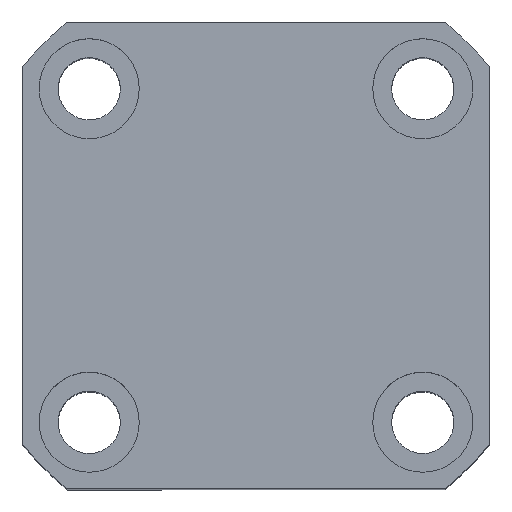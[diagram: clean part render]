
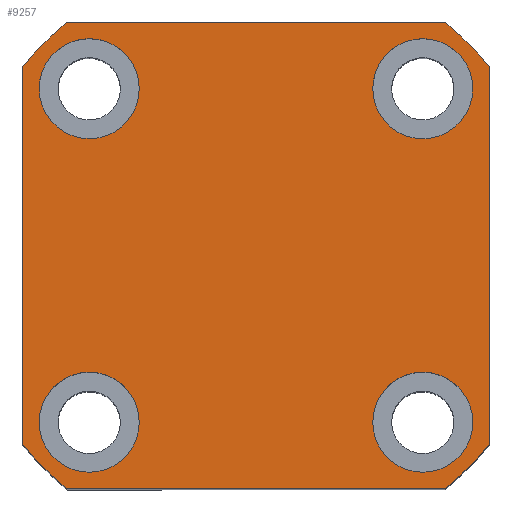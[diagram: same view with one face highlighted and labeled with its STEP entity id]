
A CAD part, top view. The second image highlights one B-rep face of the part: STEP entity #9257.
In plain terms, the highlighted planar face has unit normal (0, 0, 1).
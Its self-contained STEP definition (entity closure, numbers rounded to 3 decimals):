
#21 = CIRCLE ( 'NONE', #6198, 27. ) ;
#107 = DIRECTION ( 'NONE',  ( 1., 0., 0. ) ) ;
#111 = ORIENTED_EDGE ( 'NONE', *, *, #5275, .F. ) ;
#158 = DIRECTION ( 'NONE',  ( 1., 0., 0. ) ) ;
#187 = CARTESIAN_POINT ( 'NONE',  ( -19.5, -14.998, 53. ) ) ;
#353 = EDGE_LOOP ( 'NONE', ( #111, #7687 ) ) ;
#419 = ORIENTED_EDGE ( 'NONE', *, *, #3808, .F. ) ;
#482 = DIRECTION ( 'NONE',  ( 0., -1., 0. ) ) ;
#826 = LINE ( 'NONE', #8890, #2815 ) ;
#912 = CARTESIAN_POINT ( 'NONE',  ( 0., 0., 53. ) ) ;
#973 = EDGE_LOOP ( 'NONE', ( #419, #5127 ) ) ;
#989 = AXIS2_PLACEMENT_3D ( 'NONE', #1233, #7025, #2065 ) ;
#1097 = AXIS2_PLACEMENT_3D ( 'NONE', #6761, #1789, #7550 ) ;
#1173 = CARTESIAN_POINT ( 'NONE',  ( -15., 15.002, 53. ) ) ;
#1205 = FACE_BOUND ( 'NONE', #1309, .T. ) ;
#1208 = DIRECTION ( 'NONE',  ( 0., 0., 1. ) ) ;
#1233 = CARTESIAN_POINT ( 'NONE',  ( 15., 15., 53. ) ) ;
#1245 = DIRECTION ( 'NONE',  ( 1., 0., 0. ) ) ;
#1309 = EDGE_LOOP ( 'NONE', ( #9272, #7225 ) ) ;
#1359 = EDGE_CURVE ( 'NONE', #1719, #10538, #7311, .T. ) ;
#1425 = CARTESIAN_POINT ( 'NONE',  ( -15., -14.998, 53. ) ) ;
#1436 = CARTESIAN_POINT ( 'NONE',  ( 21., 16.971, 53. ) ) ;
#1446 = EDGE_CURVE ( 'NONE', #8176, #4921, #8923, .T. ) ;
#1510 = DIRECTION ( 'NONE',  ( -1., 0., 0. ) ) ;
#1535 = CIRCLE ( 'NONE', #989, 4.5 ) ;
#1544 = EDGE_CURVE ( 'NONE', #9676, #9522, #2143, .T. ) ;
#1621 = PLANE ( 'NONE',  #7654 ) ;
#1664 = AXIS2_PLACEMENT_3D ( 'NONE', #9939, #5090, #107 ) ;
#1719 = VERTEX_POINT ( 'NONE', #6957 ) ;
#1730 = VECTOR ( 'NONE', #482, 1000. ) ;
#1758 = DIRECTION ( 'NONE',  ( 1., 0., 0. ) ) ;
#1789 = DIRECTION ( 'NONE',  ( 0., 0., 1. ) ) ;
#1834 = LINE ( 'NONE', #8924, #8130 ) ;
#1846 = EDGE_CURVE ( 'NONE', #7082, #8819, #826, .T. ) ;
#1909 = DIRECTION ( 'NONE',  ( 0., 0., 1. ) ) ;
#2065 = DIRECTION ( 'NONE',  ( 1., 0., 0. ) ) ;
#2143 = CIRCLE ( 'NONE', #3657, 4.5 ) ;
#2167 = ORIENTED_EDGE ( 'NONE', *, *, #9936, .T. ) ;
#2182 = AXIS2_PLACEMENT_3D ( 'NONE', #3732, #9422, #4555 ) ;
#2277 = DIRECTION ( 'NONE',  ( 1., 0., 0. ) ) ;
#2385 = CARTESIAN_POINT ( 'NONE',  ( 0., 0., 53. ) ) ;
#2497 = EDGE_CURVE ( 'NONE', #9258, #2653, #9911, .T. ) ;
#2653 = VERTEX_POINT ( 'NONE', #7353 ) ;
#2762 = CARTESIAN_POINT ( 'NONE',  ( 10.5, -14.998, 53. ) ) ;
#2815 = VECTOR ( 'NONE', #1510, 1000. ) ;
#2931 = CIRCLE ( 'NONE', #9169, 4.5 ) ;
#2987 = CARTESIAN_POINT ( 'NONE',  ( 0., 0., 53. ) ) ;
#3237 = DIRECTION ( 'NONE',  ( 1., 0., 0. ) ) ;
#3449 = FACE_BOUND ( 'NONE', #353, .T. ) ;
#3460 = CARTESIAN_POINT ( 'NONE',  ( -10.5, -14.998, 53. ) ) ;
#3470 = CARTESIAN_POINT ( 'NONE',  ( -15., 15.002, 53. ) ) ;
#3576 = ORIENTED_EDGE ( 'NONE', *, *, #7195, .T. ) ;
#3589 = CARTESIAN_POINT ( 'NONE',  ( 19.5, 15., 53. ) ) ;
#3657 = AXIS2_PLACEMENT_3D ( 'NONE', #9983, #5139, #158 ) ;
#3732 = CARTESIAN_POINT ( 'NONE',  ( 0., 0., 53. ) ) ;
#3754 = CARTESIAN_POINT ( 'NONE',  ( -16.971, -21., 53. ) ) ;
#3763 = CIRCLE ( 'NONE', #7307, 4.5 ) ;
#3790 = DIRECTION ( 'NONE',  ( 1., 0., 0. ) ) ;
#3808 = EDGE_CURVE ( 'NONE', #9298, #10289, #5096, .T. ) ;
#3876 = EDGE_CURVE ( 'NONE', #10355, #4450, #2931, .T. ) ;
#3940 = FACE_BOUND ( 'NONE', #973, .T. ) ;
#3977 = DIRECTION ( 'NONE',  ( 0., 0., 1. ) ) ;
#4091 = EDGE_CURVE ( 'NONE', #8819, #9258, #7893, .T. ) ;
#4168 = CARTESIAN_POINT ( 'NONE',  ( -16.971, 21., 53. ) ) ;
#4278 = DIRECTION ( 'NONE',  ( 1., 0., 0. ) ) ;
#4450 = VERTEX_POINT ( 'NONE', #10567 ) ;
#4536 = ORIENTED_EDGE ( 'NONE', *, *, #10610, .T. ) ;
#4555 = DIRECTION ( 'NONE',  ( 1., 0., 0. ) ) ;
#4600 = ORIENTED_EDGE ( 'NONE', *, *, #9685, .T. ) ;
#4883 = DIRECTION ( 'NONE',  ( 1., 0., 0. ) ) ;
#4921 = VERTEX_POINT ( 'NONE', #6996 ) ;
#5090 = DIRECTION ( 'NONE',  ( 0., 0., 1. ) ) ;
#5096 = CIRCLE ( 'NONE', #8619, 4.5 ) ;
#5118 = VECTOR ( 'NONE', #7214, 1000. ) ;
#5127 = ORIENTED_EDGE ( 'NONE', *, *, #7984, .F. ) ;
#5139 = DIRECTION ( 'NONE',  ( 0., 0., 1. ) ) ;
#5157 = AXIS2_PLACEMENT_3D ( 'NONE', #6877, #1909, #7658 ) ;
#5193 = EDGE_CURVE ( 'NONE', #4921, #8176, #3763, .T. ) ;
#5275 = EDGE_CURVE ( 'NONE', #9522, #9676, #1535, .T. ) ;
#5287 = CIRCLE ( 'NONE', #1097, 4.5 ) ;
#5311 = VERTEX_POINT ( 'NONE', #5382 ) ;
#5373 = VERTEX_POINT ( 'NONE', #3754 ) ;
#5382 = CARTESIAN_POINT ( 'NONE',  ( 16.971, -21., 53. ) ) ;
#5844 = AXIS2_PLACEMENT_3D ( 'NONE', #2385, #8103, #3237 ) ;
#5903 = CARTESIAN_POINT ( 'NONE',  ( -21., 16.971, 53. ) ) ;
#6005 = CIRCLE ( 'NONE', #5844, 27. ) ;
#6116 = CARTESIAN_POINT ( 'NONE',  ( 16.971, 21., 53. ) ) ;
#6198 = AXIS2_PLACEMENT_3D ( 'NONE', #2987, #8657, #3790 ) ;
#6265 = CARTESIAN_POINT ( 'NONE',  ( 21., 21., 53. ) ) ;
#6317 = CARTESIAN_POINT ( 'NONE',  ( -21., 21., 53. ) ) ;
#6667 = ORIENTED_EDGE ( 'NONE', *, *, #7979, .F. ) ;
#6736 = DIRECTION ( 'NONE',  ( 0., 0., 1. ) ) ;
#6761 = CARTESIAN_POINT ( 'NONE',  ( -15., -14.998, 53. ) ) ;
#6877 = CARTESIAN_POINT ( 'NONE',  ( 0., 0., 53. ) ) ;
#6957 = CARTESIAN_POINT ( 'NONE',  ( 21., -16.971, 53. ) ) ;
#6995 = ORIENTED_EDGE ( 'NONE', *, *, #1359, .T. ) ;
#6996 = CARTESIAN_POINT ( 'NONE',  ( -19.5, 15.002, 53. ) ) ;
#7025 = DIRECTION ( 'NONE',  ( 0., 0., 1. ) ) ;
#7082 = VERTEX_POINT ( 'NONE', #6116 ) ;
#7195 = EDGE_CURVE ( 'NONE', #2653, #5373, #7218, .T. ) ;
#7209 = CIRCLE ( 'NONE', #1664, 4.5 ) ;
#7214 = DIRECTION ( 'NONE',  ( 0., 1., 0. ) ) ;
#7218 = CIRCLE ( 'NONE', #2182, 27. ) ;
#7221 = DIRECTION ( 'NONE',  ( 0., 0., 1. ) ) ;
#7225 = ORIENTED_EDGE ( 'NONE', *, *, #5193, .F. ) ;
#7307 = AXIS2_PLACEMENT_3D ( 'NONE', #3470, #9147, #4278 ) ;
#7311 = LINE ( 'NONE', #6265, #5118 ) ;
#7353 = CARTESIAN_POINT ( 'NONE',  ( -21., -16.971, 53. ) ) ;
#7550 = DIRECTION ( 'NONE',  ( 1., 0., 0. ) ) ;
#7654 = AXIS2_PLACEMENT_3D ( 'NONE', #912, #6736, #1758 ) ;
#7658 = DIRECTION ( 'NONE',  ( 1., 0., 0. ) ) ;
#7687 = ORIENTED_EDGE ( 'NONE', *, *, #1544, .F. ) ;
#7893 = CIRCLE ( 'NONE', #5157, 27. ) ;
#7979 = EDGE_CURVE ( 'NONE', #4450, #10355, #7209, .T. ) ;
#7984 = EDGE_CURVE ( 'NONE', #10289, #9298, #5287, .T. ) ;
#8064 = ORIENTED_EDGE ( 'NONE', *, *, #1846, .T. ) ;
#8103 = DIRECTION ( 'NONE',  ( 0., 0., 1. ) ) ;
#8126 = ORIENTED_EDGE ( 'NONE', *, *, #3876, .F. ) ;
#8130 = VECTOR ( 'NONE', #4883, 1000. ) ;
#8176 = VERTEX_POINT ( 'NONE', #10163 ) ;
#8230 = AXIS2_PLACEMENT_3D ( 'NONE', #1173, #1208, #1245 ) ;
#8619 = AXIS2_PLACEMENT_3D ( 'NONE', #1425, #7221, #2277 ) ;
#8657 = DIRECTION ( 'NONE',  ( 0., 0., 1. ) ) ;
#8689 = ORIENTED_EDGE ( 'NONE', *, *, #4091, .T. ) ;
#8819 = VERTEX_POINT ( 'NONE', #4168 ) ;
#8845 = CARTESIAN_POINT ( 'NONE',  ( 15., -14.998, 53. ) ) ;
#8890 = CARTESIAN_POINT ( 'NONE',  ( -21., 21., 53. ) ) ;
#8923 = CIRCLE ( 'NONE', #8230, 4.5 ) ;
#8924 = CARTESIAN_POINT ( 'NONE',  ( -21., -21., 53. ) ) ;
#8947 = ORIENTED_EDGE ( 'NONE', *, *, #2497, .T. ) ;
#9147 = DIRECTION ( 'NONE',  ( 0., 0., 1. ) ) ;
#9169 = AXIS2_PLACEMENT_3D ( 'NONE', #8845, #3977, #9672 ) ;
#9257 = ADVANCED_FACE ( 'NONE', ( #1205, #3940, #9914, #3449, #9670 ), #1621, .T. ) ;
#9258 = VERTEX_POINT ( 'NONE', #5903 ) ;
#9272 = ORIENTED_EDGE ( 'NONE', *, *, #1446, .F. ) ;
#9298 = VERTEX_POINT ( 'NONE', #3460 ) ;
#9422 = DIRECTION ( 'NONE',  ( 0., 0., 1. ) ) ;
#9522 = VERTEX_POINT ( 'NONE', #3589 ) ;
#9618 = EDGE_LOOP ( 'NONE', ( #6995, #2167, #8064, #8689, #8947, #3576, #4536, #4600 ) ) ;
#9670 = FACE_OUTER_BOUND ( 'NONE', #9618, .T. ) ;
#9672 = DIRECTION ( 'NONE',  ( 1., 0., 0. ) ) ;
#9676 = VERTEX_POINT ( 'NONE', #10489 ) ;
#9685 = EDGE_CURVE ( 'NONE', #5311, #1719, #6005, .T. ) ;
#9911 = LINE ( 'NONE', #6317, #1730 ) ;
#9914 = FACE_BOUND ( 'NONE', #10005, .T. ) ;
#9936 = EDGE_CURVE ( 'NONE', #10538, #7082, #21, .T. ) ;
#9939 = CARTESIAN_POINT ( 'NONE',  ( 15., -14.998, 53. ) ) ;
#9983 = CARTESIAN_POINT ( 'NONE',  ( 15., 15., 53. ) ) ;
#10005 = EDGE_LOOP ( 'NONE', ( #6667, #8126 ) ) ;
#10163 = CARTESIAN_POINT ( 'NONE',  ( -10.5, 15.002, 53. ) ) ;
#10289 = VERTEX_POINT ( 'NONE', #187 ) ;
#10355 = VERTEX_POINT ( 'NONE', #2762 ) ;
#10489 = CARTESIAN_POINT ( 'NONE',  ( 10.5, 15., 53. ) ) ;
#10538 = VERTEX_POINT ( 'NONE', #1436 ) ;
#10567 = CARTESIAN_POINT ( 'NONE',  ( 19.5, -14.998, 53. ) ) ;
#10610 = EDGE_CURVE ( 'NONE', #5373, #5311, #1834, .T. ) ;
